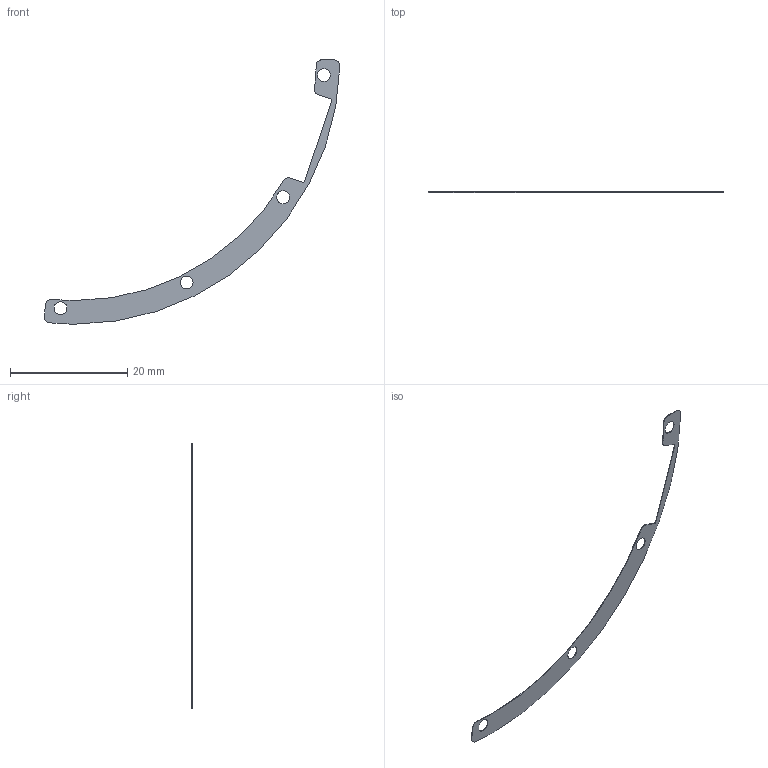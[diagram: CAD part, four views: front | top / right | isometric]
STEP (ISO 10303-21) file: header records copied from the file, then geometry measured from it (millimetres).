
FILE_DESCRIPTION (( 'STEP AP214' ), '1' );
FILE_NAME ('MN02239D02_01.STEP', '2023-12-18T13:17:27', ( '' ), ( '' ), 'SwSTEP 2.0', 'SolidWorks 2022', '' );
FILE_SCHEMA (( 'AUTOMOTIVE_DESIGN' ));
Length unit declared in the file: millimetre
Products named in the file (1): MN02239D02_01
Bounding box: 50.52 x 0.1 x 45.15 mm (x, y, z)
Volume: 23.7 mm3; surface area: 492.5 mm2
Topology: 1 solids, 1 shells, 29 faces, 81 edges, 54 vertices
Faces by surface type: cylinder 22, plane 7
Entity records: 1009 total; most frequent: DIRECTION 185, CARTESIAN_POINT 165, ORIENTED_EDGE 162, EDGE_CURVE 81, AXIS2_PLACEMENT_3D 74, VERTEX_POINT 54, CIRCLE 44, VECTOR 37
